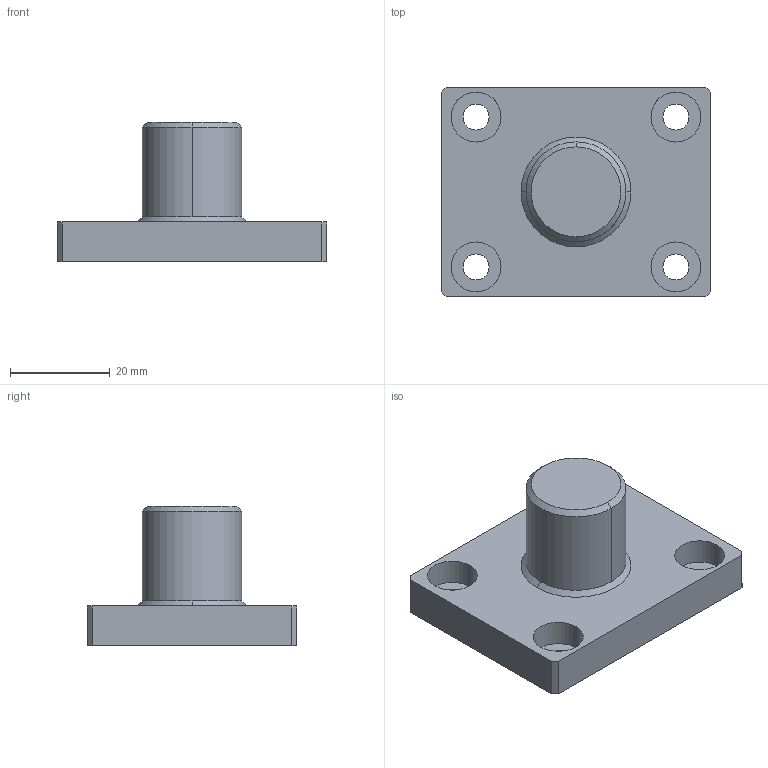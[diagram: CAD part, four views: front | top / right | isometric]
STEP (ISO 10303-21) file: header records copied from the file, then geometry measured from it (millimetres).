
FILE_DESCRIPTION (( 'STEP AP214' ), '1' );
FILE_NAME ('SCE2-25.STEP', '2019-11-07T06:43:03', ( '微软用户' ), ( '微软中国' ), 'SwSTEP 2.0', 'SolidWorks 2016', '' );
FILE_SCHEMA (( 'AUTOMOTIVE_DESIGN' ));
Length unit declared in the file: millimetre
Products named in the file (1): SCE2-25
Bounding box: 54 x 42 x 28 mm (x, y, z)
Volume: 22541.8 mm3; surface area: 7898.8 mm2
Topology: 1 solids, 1 shells, 37 faces, 88 edges, 58 vertices
Faces by surface type: cylinder 18, plane 15, cone 4
Entity records: 1138 total; most frequent: DIRECTION 206, CARTESIAN_POINT 184, ORIENTED_EDGE 176, EDGE_CURVE 88, AXIS2_PLACEMENT_3D 80, VERTEX_POINT 58, EDGE_LOOP 50, VECTOR 46
